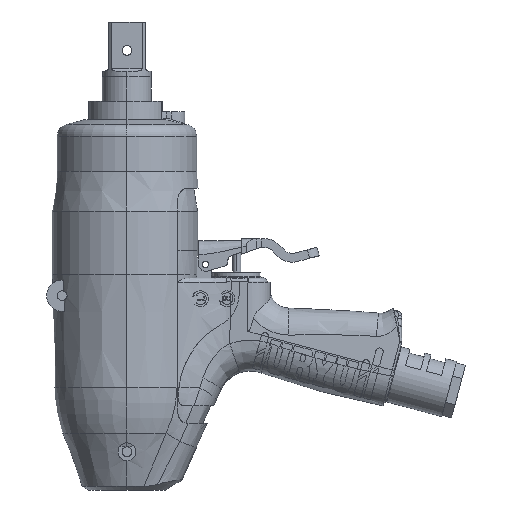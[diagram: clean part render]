
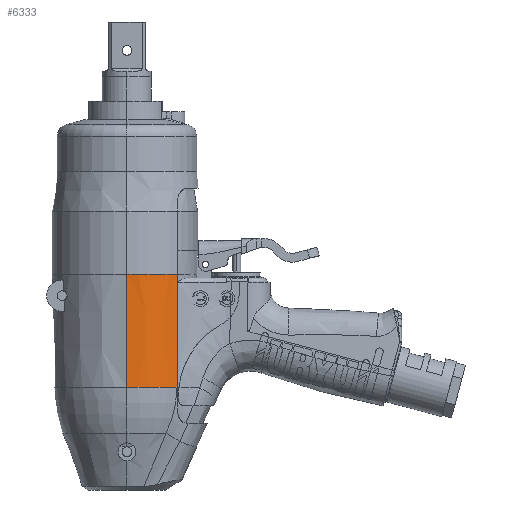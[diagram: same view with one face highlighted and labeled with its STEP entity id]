
A CAD part, left-side view. The second image highlights one B-rep face of the part: STEP entity #6333.
In plain terms, the highlighted conical face has half-angle 1 degrees and reference radius 36.993 mm.
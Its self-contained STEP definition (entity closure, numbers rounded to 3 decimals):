
#764 = CIRCLE ( 'NONE', #28826, 38. ) ;
#1060 = FACE_OUTER_BOUND ( 'NONE', #12500, .T. ) ;
#2382 = CARTESIAN_POINT ( 'NONE',  ( -26.763, -25.539, -171.69 ) ) ;
#6333 = ADVANCED_FACE ( 'NONE', ( #1060 ), #13969, .T. ) ;
#6811 = DIRECTION ( 'NONE',  ( -0.017, 0., 1. ) ) ;
#7933 = CARTESIAN_POINT ( 'NONE',  ( -26.816, -25.693, -163.422 ) ) ;
#8130 = EDGE_CURVE ( 'NONE', #48142, #25366, #70939, .T. ) ;
#9689 = CARTESIAN_POINT ( 'NONE',  ( -27.187, -26., -135.93 ) ) ;
#10165 = VERTEX_POINT ( 'NONE', #33272 ) ;
#10401 = CARTESIAN_POINT ( 'NONE',  ( -27.713, -26., -114.017 ) ) ;
#12500 = EDGE_LOOP ( 'NONE', ( #17387, #19183, #68753, #62738, #36132 ) ) ;
#13674 = CARTESIAN_POINT ( 'NONE',  ( -26.868, -25.846, -155.154 ) ) ;
#13969 = CONICAL_SURFACE ( 'NONE', #17223, 36.993, 0.017 ) ;
#15773 = CARTESIAN_POINT ( 'NONE',  ( -36.993, 0., -171.69 ) ) ;
#17223 = AXIS2_PLACEMENT_3D ( 'NONE', #55246, #39327, #28217 ) ;
#17387 = ORIENTED_EDGE ( 'NONE', *, *, #67965, .F. ) ;
#19183 = ORIENTED_EDGE ( 'NONE', *, *, #8130, .T. ) ;
#20581 = CARTESIAN_POINT ( 'NONE',  ( 0., 0., -171.69 ) ) ;
#20730 = CARTESIAN_POINT ( 'NONE',  ( -27.713, -26., -114.017 ) ) ;
#23599 = EDGE_CURVE ( 'NONE', #10165, #25561, #45606, .T. ) ;
#25366 = VERTEX_POINT ( 'NONE', #31186 ) ;
#25561 = VERTEX_POINT ( 'NONE', #10401 ) ;
#26118 = DIRECTION ( 'NONE',  ( 1., 0., 0. ) ) ;
#27585 = CARTESIAN_POINT ( 'NONE',  ( -38., 0., -114.017 ) ) ;
#27765 = VERTEX_POINT ( 'NONE', #27585 ) ;
#28217 = DIRECTION ( 'NONE',  ( 1., 0., 0. ) ) ;
#28826 = AXIS2_PLACEMENT_3D ( 'NONE', #30955, #69638, #36491 ) ;
#30955 = CARTESIAN_POINT ( 'NONE',  ( 0., 0., -114.017 ) ) ;
#31186 = CARTESIAN_POINT ( 'NONE',  ( -26.763, -25.539, -171.69 ) ) ;
#33272 = CARTESIAN_POINT ( 'NONE',  ( -26.921, -26., -146.886 ) ) ;
#36132 = ORIENTED_EDGE ( 'NONE', *, *, #59397, .F. ) ;
#36491 = DIRECTION ( 'NONE',  ( 1., 0., 0. ) ) ;
#39181 = B_SPLINE_CURVE_WITH_KNOTS ( 'NONE', 3,
 ( #2382, #7933, #13674, #52285 ),
 .UNSPECIFIED., .F., .F.,
 ( 4, 4 ),
 ( 0., 0.025 ),
 .UNSPECIFIED. ) ;
#39327 = DIRECTION ( 'NONE',  ( 0., 0., 1. ) ) ;
#39818 = CARTESIAN_POINT ( 'NONE',  ( -36.993, 0., -171.69 ) ) ;
#40865 = AXIS2_PLACEMENT_3D ( 'NONE', #20581, #59239, #26118 ) ;
#45215 = VECTOR ( 'NONE', #6811, 1000. ) ;
#45606 = B_SPLINE_CURVE_WITH_KNOTS ( 'NONE', 3,
 ( #48016, #9689, #53804, #20730 ),
 .UNSPECIFIED., .F., .F.,
 ( 4, 4 ),
 ( 0.084, 0.116 ),
 .UNSPECIFIED. ) ;
#48016 = CARTESIAN_POINT ( 'NONE',  ( -26.921, -26., -146.886 ) ) ;
#48142 = VERTEX_POINT ( 'NONE', #15773 ) ;
#52188 = EDGE_CURVE ( 'NONE', #25366, #10165, #39181, .T. ) ;
#52285 = CARTESIAN_POINT ( 'NONE',  ( -26.921, -26., -146.886 ) ) ;
#53804 = CARTESIAN_POINT ( 'NONE',  ( -27.451, -26., -124.974 ) ) ;
#55246 = CARTESIAN_POINT ( 'NONE',  ( 0., 0., -171.69 ) ) ;
#58212 = LINE ( 'NONE', #39818, #45215 ) ;
#59239 = DIRECTION ( 'NONE',  ( 0., 0., 1. ) ) ;
#59397 = EDGE_CURVE ( 'NONE', #27765, #25561, #764, .T. ) ;
#62738 = ORIENTED_EDGE ( 'NONE', *, *, #23599, .T. ) ;
#67965 = EDGE_CURVE ( 'NONE', #48142, #27765, #58212, .T. ) ;
#68753 = ORIENTED_EDGE ( 'NONE', *, *, #52188, .T. ) ;
#69638 = DIRECTION ( 'NONE',  ( 0., 0., 1. ) ) ;
#70939 = CIRCLE ( 'NONE', #40865, 36.993 ) ;
